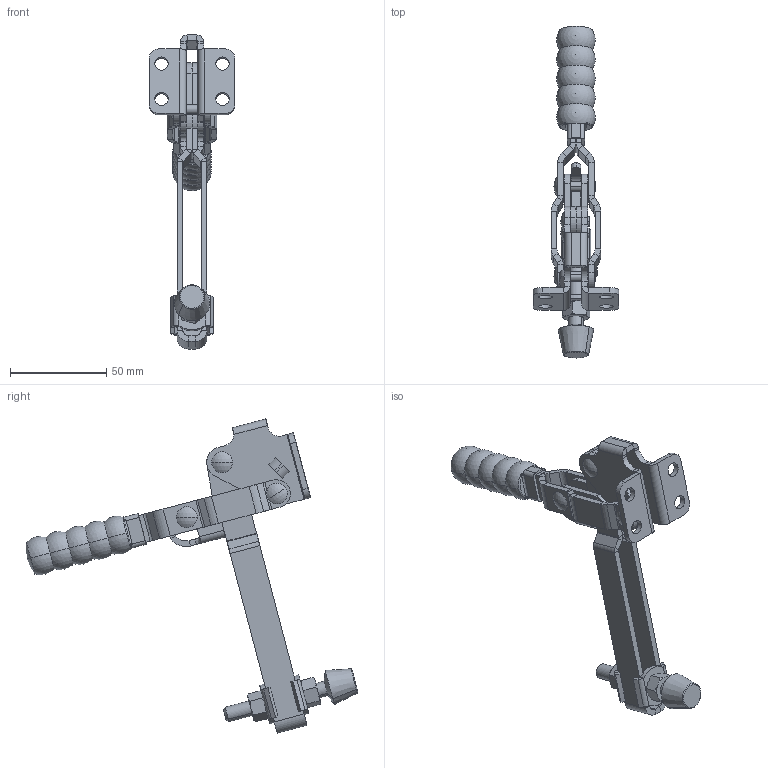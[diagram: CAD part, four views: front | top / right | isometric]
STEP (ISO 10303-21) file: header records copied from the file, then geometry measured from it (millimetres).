
FILE_DESCRIPTION (( 'STEP AP214' ), '1' );
FILE_NAME ('ISK-HV4530-XL Assy.STEP', '2016-05-12T07:12:01', ( '' ), ( '' ), 'SwSTEP 2.0', 'SolidWorks 2016', '' );
FILE_SCHEMA (( 'AUTOMOTIVE_DESIGN' ));
Length unit declared in the file: millimetre
Products named in the file (11): flat round head rivets gb_GB_RIVETS_ROUND_TYPE83 5X20; flat round head rivets gb_GB_RIVETS_ROUND_TYPE83 5X13; hexagon nut style 2_ab_jis_JIS B 1181 Hexagon nut - style 2 A M8 - D --N; Rubber bolt_M8×55; Washer_D8-15; Grip; Arm; Handle; Base; Link; ISK-HV4530-XL Assy
Assembly tree (15 placements, depth 2):
  ISK-HV4530-XL Assy
    Link
    Base
    Handle  x2
    Arm
    Grip
    Washer_D8-15  x2
    Rubber bolt_M8×55
    hexagon nut style 2_ab_jis_JIS B 1181 Hexagon nut - style 2 A M8 - D --N  x2
    flat round head rivets gb_GB_RIVETS_ROUND_TYPE83 5X13  x2
    flat round head rivets gb_GB_RIVETS_ROUND_TYPE83 5X20  x2
Bounding box: 44.6 x 172.67 x 163.46 mm (x, y, z)
Volume: 64254.5 mm3; surface area: 48926.8 mm2
Topology: 15 solids, 15 shells, 534 faces, 1214 edges, 702 vertices
Faces by surface type: plane 276, cylinder 168, cone 38, sphere 20, bspline 16, torus 16
Entity records: 12074 total; most frequent: CARTESIAN_POINT 2472, DIRECTION 2010, ORIENTED_EDGE 1824, EDGE_CURVE 912, AXIS2_PLACEMENT_3D 761, VERTEX_POINT 533, LINE 488, VECTOR 488
